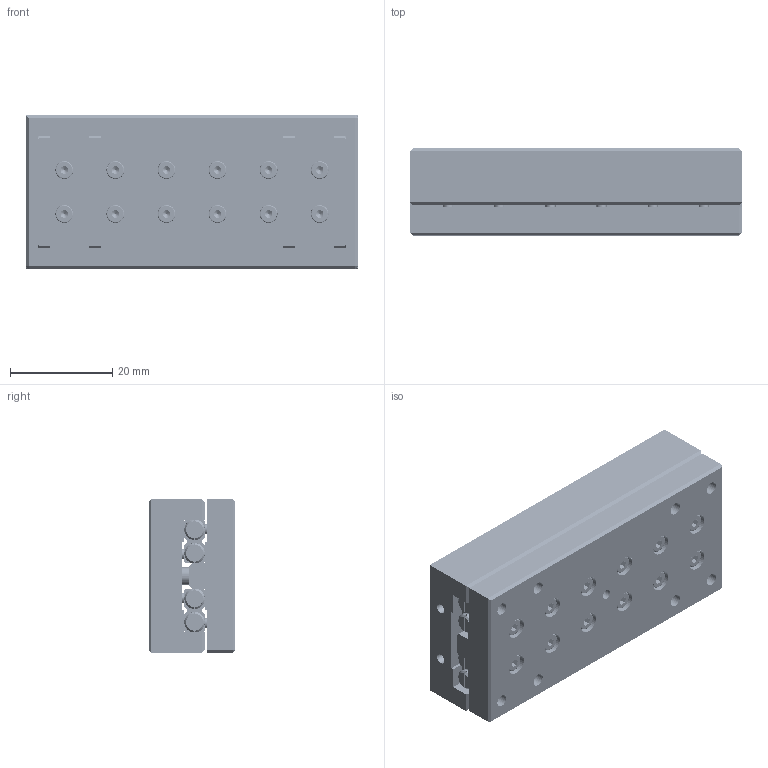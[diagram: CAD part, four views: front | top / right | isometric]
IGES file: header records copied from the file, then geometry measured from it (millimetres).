
Start section: SolidWorks IGES file using analytic representation for surfaces
Global section: file name: C:\Documents and Settings\IanO.IANOHOME\My Documents\Wix and Auto CAD Work\CAD Models\Parametric Models\Auto Models\L1020\L1020_IGES\L1020.030-065.igs; native system: SolidWorks 2009; preprocessor: SolidWorks 2009; author: IanO; date: 110922.162009; units: millimetre
Bounding box: 65 x 17 x 30 mm (x, y, z)
Surface area: 22033.1 mm2 (no closed solid volume)
Topology: 0 solids, 0 shells, 1668 faces, 20488 edges, 20428 vertices
Faces by surface type: bspline 1032, revolution 636
